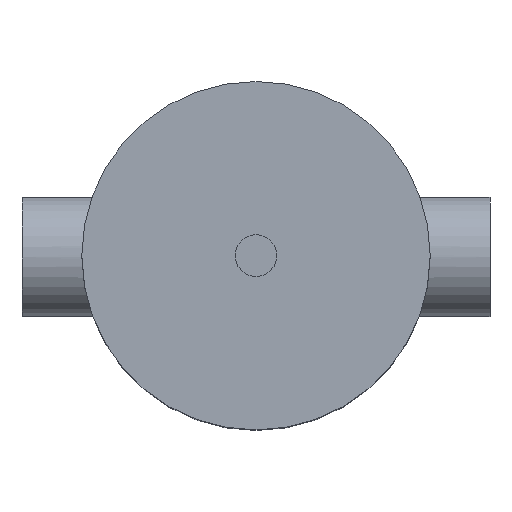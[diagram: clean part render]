
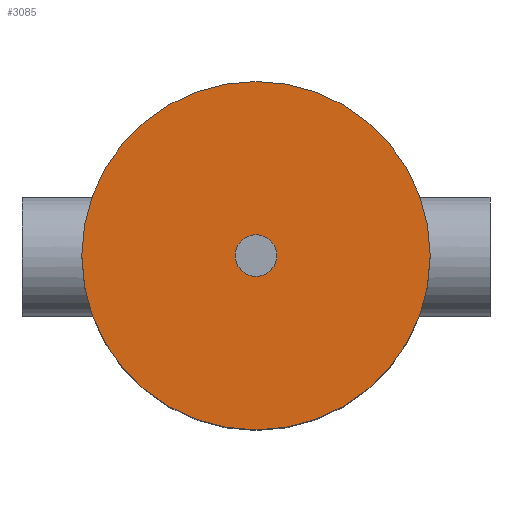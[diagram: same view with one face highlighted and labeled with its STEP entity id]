
A CAD part, top view. The second image highlights one B-rep face of the part: STEP entity #3085.
In plain terms, the highlighted planar face has unit normal (0, 0, 1).
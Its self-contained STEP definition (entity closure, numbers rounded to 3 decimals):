
#3001 = CYLINDRICAL_SURFACE('',#3002,33.5);
#3002 = AXIS2_PLACEMENT_3D('',#3003,#3004,#3005);
#3003 = CARTESIAN_POINT('',(0.,0.,82.5));
#3004 = DIRECTION('',(0.,0.,1.));
#3005 = DIRECTION('',(1.,0.,0.));
#3034 = EDGE_CURVE('',#3035,#3035,#3037,.T.);
#3035 = VERTEX_POINT('',#3036);
#3036 = CARTESIAN_POINT('',(33.5,0.,148.5));
#3037 = SURFACE_CURVE('',#3038,(#3043,#3050),.PCURVE_S1.);
#3038 = CIRCLE('',#3039,33.5);
#3039 = AXIS2_PLACEMENT_3D('',#3040,#3041,#3042);
#3040 = CARTESIAN_POINT('',(0.,0.,148.5));
#3041 = DIRECTION('',(0.,0.,1.));
#3042 = DIRECTION('',(1.,0.,0.));
#3043 = PCURVE('',#3001,#3044);
#3044 = DEFINITIONAL_REPRESENTATION('',(#3045),#3049);
#3045 = LINE('',#3046,#3047);
#3046 = CARTESIAN_POINT('',(0.,66.));
#3047 = VECTOR('',#3048,1.);
#3048 = DIRECTION('',(1.,0.));
#3049 = ( GEOMETRIC_REPRESENTATION_CONTEXT(2) 
PARAMETRIC_REPRESENTATION_CONTEXT() REPRESENTATION_CONTEXT('2D SPACE',''
  ) );
#3050 = PCURVE('',#3051,#3056);
#3051 = PLANE('',#3052);
#3052 = AXIS2_PLACEMENT_3D('',#3053,#3054,#3055);
#3053 = CARTESIAN_POINT('',(0.,0.,148.5));
#3054 = DIRECTION('',(0.,0.,1.));
#3055 = DIRECTION('',(1.,0.,0.));
#3056 = DEFINITIONAL_REPRESENTATION('',(#3057),#3061);
#3057 = CIRCLE('',#3058,33.5);
#3058 = AXIS2_PLACEMENT_2D('',#3059,#3060);
#3059 = CARTESIAN_POINT('',(0.,0.));
#3060 = DIRECTION('',(1.,0.));
#3061 = ( GEOMETRIC_REPRESENTATION_CONTEXT(2) 
PARAMETRIC_REPRESENTATION_CONTEXT() REPRESENTATION_CONTEXT('2D SPACE',''
  ) );
#3085 = ADVANCED_FACE('',(#3086,#3089),#3051,.T.);
#3086 = FACE_BOUND('',#3087,.T.);
#3087 = EDGE_LOOP('',(#3088));
#3088 = ORIENTED_EDGE('',*,*,#3034,.T.);
#3089 = FACE_BOUND('',#3090,.T.);
#3090 = EDGE_LOOP('',(#3091));
#3091 = ORIENTED_EDGE('',*,*,#3092,.F.);
#3092 = EDGE_CURVE('',#3093,#3093,#3095,.T.);
#3093 = VERTEX_POINT('',#3094);
#3094 = CARTESIAN_POINT('',(4.,0.,148.5));
#3095 = SURFACE_CURVE('',#3096,(#3101,#3108),.PCURVE_S1.);
#3096 = CIRCLE('',#3097,4.);
#3097 = AXIS2_PLACEMENT_3D('',#3098,#3099,#3100);
#3098 = CARTESIAN_POINT('',(0.,0.,148.5));
#3099 = DIRECTION('',(0.,0.,1.));
#3100 = DIRECTION('',(1.,0.,-0.));
#3101 = PCURVE('',#3051,#3102);
#3102 = DEFINITIONAL_REPRESENTATION('',(#3103),#3107);
#3103 = CIRCLE('',#3104,4.);
#3104 = AXIS2_PLACEMENT_2D('',#3105,#3106);
#3105 = CARTESIAN_POINT('',(0.,0.));
#3106 = DIRECTION('',(1.,0.));
#3107 = ( GEOMETRIC_REPRESENTATION_CONTEXT(2) 
PARAMETRIC_REPRESENTATION_CONTEXT() REPRESENTATION_CONTEXT('2D SPACE',''
  ) );
#3108 = PCURVE('',#3109,#3114);
#3109 = CYLINDRICAL_SURFACE('',#3110,4.);
#3110 = AXIS2_PLACEMENT_3D('',#3111,#3112,#3113);
#3111 = CARTESIAN_POINT('',(0.,0.,18.));
#3112 = DIRECTION('',(0.,0.,1.));
#3113 = DIRECTION('',(1.,0.,0.));
#3114 = DEFINITIONAL_REPRESENTATION('',(#3115),#3119);
#3115 = LINE('',#3116,#3117);
#3116 = CARTESIAN_POINT('',(0.,130.5));
#3117 = VECTOR('',#3118,1.);
#3118 = DIRECTION('',(1.,0.));
#3119 = ( GEOMETRIC_REPRESENTATION_CONTEXT(2) 
PARAMETRIC_REPRESENTATION_CONTEXT() REPRESENTATION_CONTEXT('2D SPACE',''
  ) );
